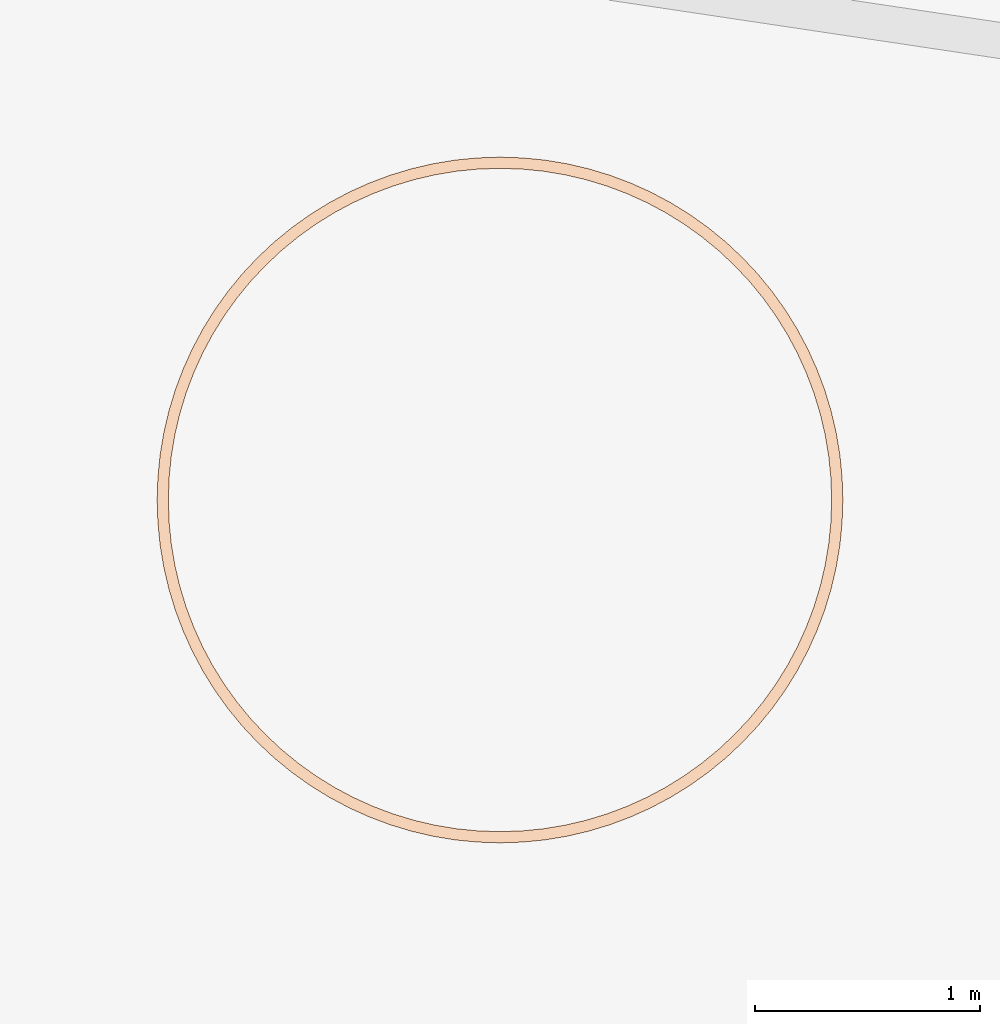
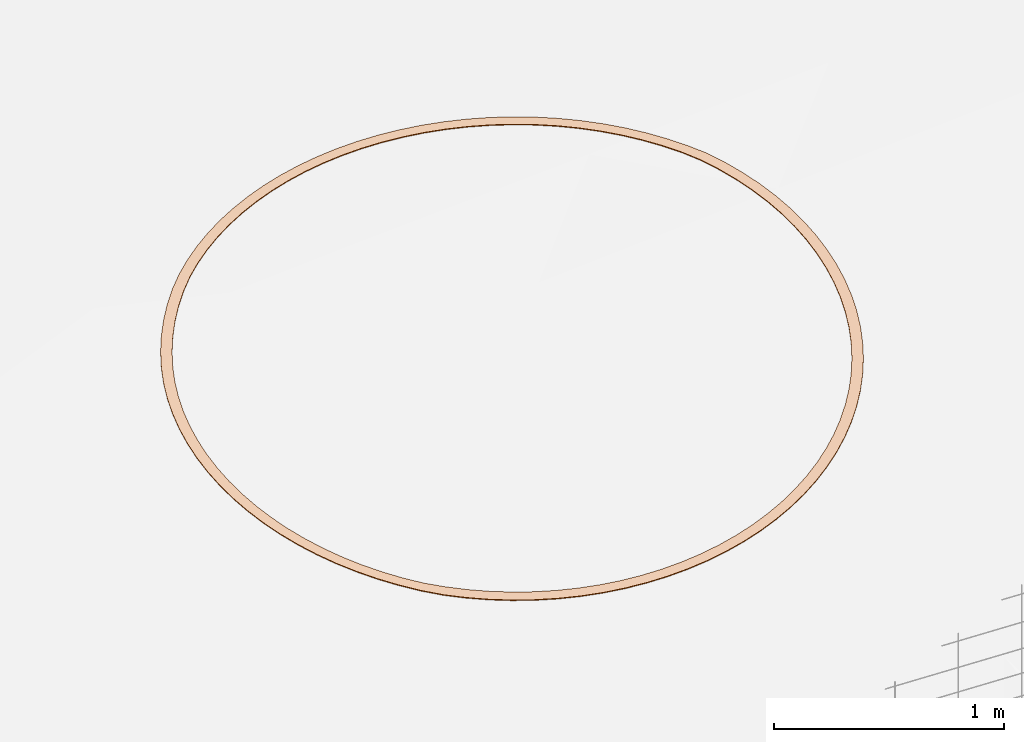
# Not in any storey, part 63 of 72: 1 geographic element.
"""IFC4 model written with IfcOpenShell, lengths in metres."""

from ifc_helpers import new_model, si_unit, direction, frame, origin_with_axes, place, context, subcontext, project, spatial, polygons, material, element, save


model = new_model("IFC4")

# Units and contexts
model_context = context("Model", 3, precision=1e-05, world=origin_with_axes(), true_north=direction((0.0, 1.0)))
body_context = subcontext(model_context, "Body", "Model", "MODEL_VIEW")
ifc_project = project(units=[si_unit("AREAUNIT", "SQUARE_METRE"), si_unit("VOLUMEUNIT", "CUBIC_METRE"), si_unit("LENGTHUNIT", "METRE")], contexts=[model_context])

# Site
site_placement = place(None, origin_with_axes())
site = spatial("IfcSite", under=ifc_project, at=site_placement, Name="Lares · Rua das Mercês · artigo 4771")

# Geographic element
ifc_material = material(Name="Marcação de plantação · linha no terreno", Category="stone")
geographic_element_placement = place(site_placement, frame((0.0, 0.0, 0.0), z_axis=(0.0, 0.0, 1.0), x_axis=(1.0, -1.03767253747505e-17, 0.0)))
element("IfcGeographicElement", 1, at=geographic_element_placement, inside=site, material=ifc_material, Name="Marcação no solo · árvore indicativa 04", ObjectType="Marcação no solo · árvore indicativa 04", PredefinedType="USERDEFINED", context=body_context, shape_type="Tessellation", body=[
    polygons([(25.6261115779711, 3.27682657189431, 13.1493449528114), (25.6261115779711, 3.27682657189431, 13.1533449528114), (25.6761115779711, 3.27682657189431, 13.1526276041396), (25.6761115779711, 3.27682657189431, 13.1566276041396), (25.6229534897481, 3.37329618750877, 13.1622537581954), (25.6229534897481, 3.37329618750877, 13.1662537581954), (25.67284643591, 3.37656634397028, 13.1659739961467), (25.67284643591, 3.37656634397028, 13.1699739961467), (25.6134927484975, 3.46935270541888, 13.174692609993), (25.6134927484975, 3.46935270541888, 13.178692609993), (25.6630649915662, 3.47587901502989, 13.1788345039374), (25.6630649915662, 3.47587901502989, 13.1828345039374), (25.5977698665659, 3.5645847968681, 13.186608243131), (25.5977698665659, 3.5645847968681, 13.190608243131), (25.646809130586, 3.5743393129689, 13.1911540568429), (25.646809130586, 3.5743393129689, 13.1951540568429), (25.5758521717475, 3.65858466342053, 13.1979496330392), (25.5758521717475, 3.65858466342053, 13.2019496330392), (25.6241484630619, 3.67152561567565, 13.2028799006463), (25.6241484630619, 3.67152561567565, 13.2068799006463), (25.5478335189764, 3.75094978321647, 13.2086682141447), (25.5478335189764, 3.75094978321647, 13.2126682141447), (25.5951800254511, 3.76702175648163, 13.2139618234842), (25.5951800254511, 3.76702175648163, 13.2179618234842), (25.5138338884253, 3.84128463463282, 13.2187180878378), (25.5138338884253, 3.84128463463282, 13.2227180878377), (25.5600278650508, 3.86041880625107, 13.2243523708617), (25.5600278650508, 3.86041880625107, 13.2283523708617), (25.4739988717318, 3.92920238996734, 13.2280562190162), (25.4739988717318, 3.92920238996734, 13.2320562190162), (25.5188425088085, 3.95131682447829, 13.2338854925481), (25.5188425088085, 3.95131682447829, 13.2378854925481), (25.4284990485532, 4.01432657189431, 13.2334932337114), (25.4284990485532, 4.01432657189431, 13.2374932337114), (25.4718003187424, 4.03932657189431, 13.2376260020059), (25.4718003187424, 4.03932657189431, 13.2416260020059), (25.3775292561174, 4.09629266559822, 13.2365890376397), (25.3775292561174, 4.09629266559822, 13.2405890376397), (25.4191027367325, 4.1240711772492, 13.2408267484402), (25.4191027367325, 4.1240711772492, 13.2448267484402), (25.3213077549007, 4.17474967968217, 13.2391495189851), (25.3213077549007, 4.17474967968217, 13.2431495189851), (25.3609754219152, 4.20518775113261, 13.2434740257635), (25.3609754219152, 4.20518775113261, 13.2474740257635), (25.2600752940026, 4.24936164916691, 13.2411637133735), (25.2600752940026, 4.24936164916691, 13.2451637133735), (25.2976672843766, 4.28232893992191, 13.2455564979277), (25.2976672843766, 4.28232893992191, 13.2495564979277), (25.1940940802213, 4.31980907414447, 13.2426229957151), (25.1940940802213, 4.31980907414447, 13.2466229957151), (25.2294494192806, 4.35516441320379, 13.2470652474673), (25.2294494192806, 4.35516441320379, 13.2510652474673), (25.1236466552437, 4.3857902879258, 13.2435211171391), (25.1236466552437, 4.3857902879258, 13.2475211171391), (25.1566139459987, 4.42338227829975, 13.2479938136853), (25.1566139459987, 4.42338227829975, 13.2519938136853), (25.049034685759, 4.44702274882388, 13.2438542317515), (25.049034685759, 4.44702274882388, 13.2478542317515), (25.0794727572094, 4.48669041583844, 13.2483382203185), (25.0794727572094, 4.48669041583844, 13.2523382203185), (24.970577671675, 4.50324425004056, 13.2436209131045), (24.970577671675, 4.50324425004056, 13.2476209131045), (24.998356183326, 4.54481773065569, 13.2480969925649), (24.998356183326, 4.54481773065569, 13.2520969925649), (24.8886115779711, 4.55421404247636, 13.2428221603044), (24.8886115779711, 4.55421404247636, 13.2468221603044), (24.9136115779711, 4.59751531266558, 13.2472711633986), (24.9136115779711, 4.59751531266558, 13.2512711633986), (24.8034873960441, 4.59971386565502, 13.2414613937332), (24.8034873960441, 4.59971386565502, 13.2454613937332), (24.8256018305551, 4.64455750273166, 13.2458742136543), (24.8256018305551, 4.64455750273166, 13.2498742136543), (24.7155696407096, 4.63954888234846, 13.2395616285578), (24.7155696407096, 4.63954888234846, 13.2435616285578), (24.7347038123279, 4.68574285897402, 13.2439627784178), (24.7347038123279, 4.68574285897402, 13.2479627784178), (24.6252347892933, 4.67354851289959, 13.2371568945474), (24.6252347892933, 4.67354851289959, 13.2411568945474), (24.6413067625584, 4.72089501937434, 13.2414765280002), (24.6413067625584, 4.72089501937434, 13.2454765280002), (24.5328696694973, 4.70156716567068, 13.2342064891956), (24.5328696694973, 4.70156716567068, 13.2382064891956), (24.5458106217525, 4.74986345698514, 13.2384261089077), (24.5458106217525, 4.74986345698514, 13.2424261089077), (24.4388698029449, 4.72348486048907, 13.2307230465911), (24.4388698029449, 4.72348486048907, 13.2347230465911), (24.4486243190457, 4.77252412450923, 13.234824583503), (24.4486243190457, 4.77252412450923, 13.238824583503), (24.3436377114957, 4.73920774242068, 13.2267214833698), (24.3436377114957, 4.73920774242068, 13.2307214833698), (24.3501640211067, 4.78877998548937, 13.2306873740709), (24.3501640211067, 4.78877998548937, 13.2346873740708), (24.2475811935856, 4.74866848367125, 13.2222189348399), (24.2475811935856, 4.74866848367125, 13.2262189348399), (24.2508513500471, 4.79856142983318, 13.2260321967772), (24.2508513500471, 4.79856142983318, 13.2300321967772), (24.1511115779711, 4.75182657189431, 13.2172346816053), (24.1511115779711, 4.75182657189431, 13.2212346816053), (24.1511115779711, 4.80182657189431, 13.2208789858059), (24.1511115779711, 4.80182657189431, 13.2248789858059), (24.0546419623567, 4.74866848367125, 13.2117900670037), (24.0546419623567, 4.74866848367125, 13.2157900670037), (24.0513718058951, 4.79856142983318, 13.2152498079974), (24.0513718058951, 4.79856142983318, 13.2192498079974), (23.9585854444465, 4.73920774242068, 13.2059084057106), (23.9585854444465, 4.73920774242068, 13.2099084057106), (23.9520591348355, 4.78877998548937, 13.2091687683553), (23.9520591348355, 4.78877998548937, 13.2131687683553), (23.8633533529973, 4.72348486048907, 13.1996148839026), (23.8633533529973, 4.72348486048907, 13.2036148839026), (23.8535988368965, 4.77252412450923, 13.2026619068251), (23.8535988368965, 4.77252412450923, 13.2066619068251), (23.7693534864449, 4.70156716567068, 13.1929364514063), (23.7693534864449, 4.70156716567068, 13.1969364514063), (23.7564125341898, 4.74986345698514, 13.1957570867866), (23.7564125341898, 4.74986345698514, 13.1997570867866), (23.676988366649, 4.67354851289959, 13.185901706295), (23.676988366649, 4.67354851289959, 13.189901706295), (23.6609163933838, 4.72089501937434, 13.1884838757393), (23.6609163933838, 4.72089501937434, 13.1924838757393), (23.5866535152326, 4.63954888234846, 13.1785407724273), (23.5866535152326, 4.63954888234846, 13.1825407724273), (23.5675193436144, 4.68574285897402, 13.1808734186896), (23.5675193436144, 4.68574285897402, 13.1848734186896), (23.4987357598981, 4.59971386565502, 13.1708851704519), (23.4987357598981, 4.59971386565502, 13.1748851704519), (23.4766213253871, 4.64455750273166, 13.1729583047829), (23.4766213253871, 4.64455750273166, 13.1769583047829), (23.4136115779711, 4.55421404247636, 13.162967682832), (23.4136115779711, 4.55421404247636, 13.166967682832), (23.3886115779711, 4.59751531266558, 13.1647724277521), (23.3886115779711, 4.59751531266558, 13.1687724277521), (23.3316454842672, 4.50324425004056, 13.1548222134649), (23.3316454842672, 4.50324425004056, 13.1588222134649), (23.3038669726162, 4.54481773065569, 13.1563508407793), (23.3038669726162, 4.54481773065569, 13.1603508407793), (23.2531884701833, 4.44702274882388, 13.1465494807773), (23.2531884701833, 4.44702274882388, 13.1505494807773), (23.2227503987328, 4.48669041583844, 13.1477350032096), (23.2227503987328, 4.48669041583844, 13.1517350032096), (23.1785765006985, 4.3857902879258, 13.1381309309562), (23.1785765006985, 4.3857902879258, 13.1421309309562), (23.1456092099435, 4.42338227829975, 13.1390310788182), (23.1456092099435, 4.42338227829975, 13.1430310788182), (23.108129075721, 4.31980907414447, 13.125837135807), (23.108129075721, 4.31980907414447, 13.129837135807), (23.0727737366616, 4.35516441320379, 13.1283229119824), (23.0727737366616, 4.35516441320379, 13.1323229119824), (23.0421478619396, 4.24936164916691, 13.1119271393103), (23.0421478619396, 4.24936164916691, 13.1159271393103), (23.0045558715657, 4.28232893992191, 13.1139413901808), (23.0045558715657, 4.28232893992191, 13.1179413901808), (22.9809154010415, 4.17474967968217, 13.0977626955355), (22.9809154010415, 4.17474967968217, 13.1017626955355), (22.941247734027, 4.20518775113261, 13.0992967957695), (22.941247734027, 4.20518775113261, 13.1032967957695), (22.9246938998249, 4.09629266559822, 13.0834044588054), (22.9246938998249, 4.09629266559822, 13.0874044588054), (22.8831204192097, 4.1240711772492, 13.0844518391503), (22.8831204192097, 4.1240711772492, 13.0884518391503), (22.8737241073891, 4.01432657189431, 13.068913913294), (22.8737241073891, 4.01432657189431, 13.072913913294), (22.8304228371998, 4.03932657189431, 13.0694700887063), (22.8304228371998, 4.03932657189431, 13.0734700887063), (22.8282242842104, 3.92920238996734, 13.0543531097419), (22.8282242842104, 3.92920238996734, 13.0583531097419), (22.7833806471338, 3.95131682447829, 13.0560940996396), (22.7833806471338, 3.95131682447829, 13.0600940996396), (22.788389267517, 3.84128463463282, 13.0422144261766), (22.788389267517, 3.84128463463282, 13.0462144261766), (22.7421952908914, 3.86041880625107, 13.0441731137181), (22.7421952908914, 3.86041880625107, 13.0481731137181), (22.7543896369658, 3.75094978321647, 13.0304368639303), (22.7543896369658, 3.75094978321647, 13.0344368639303), (22.7070431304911, 3.76702175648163, 13.0319963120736), (22.7070431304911, 3.76702175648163, 13.0359963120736), (22.7263709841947, 3.65858466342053, 13.0184623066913), (22.7263709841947, 3.65858466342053, 13.0224623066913), (22.6780746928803, 3.67152561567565, 13.0196158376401), (22.6780746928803, 3.67152561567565, 13.0236158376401), (22.7044532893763, 3.5645847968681, 13.0063420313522), (22.7044532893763, 3.5645847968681, 13.0103420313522), (22.6554140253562, 3.5743393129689, 13.0070847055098), (22.6554140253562, 3.5743393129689, 13.0110847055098), (22.6887304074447, 3.46935270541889, 12.9941279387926), (22.6887304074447, 3.46935270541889, 12.9981279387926), (22.6391581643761, 3.47587901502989, 12.9944565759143), (22.6391581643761, 3.47587901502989, 12.9984565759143), (22.6792696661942, 3.37329618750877, 12.9818723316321), (22.6792696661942, 3.37329618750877, 12.9858723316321), (22.6293767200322, 3.37656634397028, 12.9817855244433), (22.6293767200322, 3.37656634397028, 12.9857855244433), (22.6761115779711, 3.27682657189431, 12.969627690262), (22.6761115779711, 3.27682657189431, 12.973627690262), (22.6261115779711, 3.27682657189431, 12.9691258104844), (22.6261115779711, 3.27682657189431, 12.9731258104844), (22.6792696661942, 3.18035695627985, 12.9574464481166), (22.6792696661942, 3.18035695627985, 12.9614464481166), (22.6293767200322, 3.17708679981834, 12.9565316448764), (22.6293767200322, 3.17708679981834, 12.9605316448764), (22.6887304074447, 3.08430043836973, 12.9453807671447), (22.6887304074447, 3.08430043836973, 12.9493807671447), (22.6391581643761, 3.07777412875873, 12.9440569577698), (22.6391581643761, 3.07777412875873, 12.9480569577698), (22.7044532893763, 2.98906834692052, 12.9334823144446), (22.7044532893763, 2.98906834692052, 12.9374823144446), (22.6554140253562, 2.97931383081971, 12.9317551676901), (22.6554140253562, 2.97931383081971, 12.9357551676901), (22.7263709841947, 2.89506848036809, 12.9218020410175), (22.7263709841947, 2.89506848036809, 12.9258020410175), (22.6780746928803, 2.88212752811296, 12.9196789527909), (22.6780746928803, 2.88212752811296, 12.9236789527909), (22.7543896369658, 2.80270336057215, 12.9103899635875), (22.7543896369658, 2.80270336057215, 12.9143899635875), (22.7070431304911, 2.78663138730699, 12.9078800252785), (22.7070431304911, 2.78663138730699, 12.9118800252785), (22.788389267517, 2.7123685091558, 12.899294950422), (22.788389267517, 2.7123685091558, 12.903294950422), (22.7421952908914, 2.69323433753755, 12.8964089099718), (22.7421952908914, 2.69323433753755, 12.9004089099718), (22.8282242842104, 2.62445075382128, 12.8885645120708), (22.8282242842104, 2.62445075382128, 12.8925645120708), (22.7833806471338, 2.60233631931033, 12.8853147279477), (22.7833806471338, 2.60233631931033, 12.8893147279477), (22.8737241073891, 2.53932657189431, 12.8782445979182), (22.8737241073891, 2.53932657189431, 12.8822445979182), (22.8304228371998, 2.51432657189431, 12.8746449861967), (22.8304228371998, 2.51432657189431, 12.8786449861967), (22.9246938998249, 2.4573604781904, 12.8683793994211), (22.9246938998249, 2.4573604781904, 12.8723793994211), (22.8831204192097, 2.42958196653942, 12.8644453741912), (22.8831204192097, 2.42958196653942, 12.8684453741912), (22.9809154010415, 2.37890346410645, 12.8590111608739), (22.9809154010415, 2.37890346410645, 12.8630111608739), (22.941247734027, 2.34846539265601, 12.8547595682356), (22.941247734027, 2.34846539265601, 12.8587595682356), (23.0421478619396, 2.30429149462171, 12.8501799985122), (23.0421478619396, 2.30429149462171, 12.8541799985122), (23.0045558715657, 2.2713242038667, 12.845629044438), (23.0045558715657, 2.2713242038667, 12.849629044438), (23.108129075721, 2.23384406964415, 12.8422264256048), (23.108129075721, 2.23384406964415, 12.8462264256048), (23.0727737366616, 2.19848873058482, 12.837092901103), (23.0727737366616, 2.19848873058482, 12.841092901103), (23.1785765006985, 2.16786285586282, 12.8378806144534), (23.1785765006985, 2.16786285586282, 12.8418806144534), (23.1456092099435, 2.13027086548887, 12.8306051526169), (23.1456092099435, 2.13027086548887, 12.8346051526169), (23.2531884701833, 2.10663039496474, 12.8344538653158), (23.2531884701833, 2.10663039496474, 12.8384538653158), (23.2227503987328, 2.06696272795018, 12.8270622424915), (23.2227503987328, 2.06696272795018, 12.8310622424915), (23.3316454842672, 2.05040889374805, 12.8319608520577), (23.3316454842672, 2.05040889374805, 12.8359608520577), (23.3038669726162, 2.00883541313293, 12.8244847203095), (23.3038669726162, 2.00883541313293, 12.8284847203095), (23.4136115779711, 1.99943910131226, 12.8304122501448), (23.4136115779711, 1.99943910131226, 12.8344122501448), (23.3886115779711, 1.95613783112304, 12.8228836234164), (23.3886115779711, 1.95613783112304, 12.8268836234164), (23.4987357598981, 1.95393927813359, 12.8298146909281), (23.4987357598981, 1.95393927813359, 12.8338146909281), (23.4766213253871, 1.90909564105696, 12.8222658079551), (23.4766213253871, 1.90909564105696, 12.8262658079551), (23.5866535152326, 1.91410426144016, 12.830170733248), (23.5866535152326, 1.91410426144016, 12.834170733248), (23.5675193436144, 1.8679102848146, 12.8226339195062), (23.5675193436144, 1.8679102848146, 12.8266339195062), (23.676988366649, 1.88010463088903, 12.8314788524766), (23.676988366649, 1.88010463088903, 12.8354788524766), (23.6609163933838, 1.83275812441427, 12.8239863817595), (23.6609163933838, 1.83275812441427, 12.8279863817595), (23.7693534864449, 1.85208597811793, 12.8337334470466), (23.7693534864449, 1.85208597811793, 12.8377334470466), (23.7564125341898, 1.80378968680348, 12.826317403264), (23.7564125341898, 1.80378968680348, 12.830317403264), (23.8633533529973, 1.83016828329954, 12.8369248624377), (23.8633533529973, 1.83016828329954, 12.8409248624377), (23.8535988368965, 1.78112901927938, 12.8296170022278), (23.8535988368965, 1.78112901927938, 12.8336170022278), (23.9585854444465, 1.81444540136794, 12.8410394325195), (23.9585854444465, 1.81444540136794, 12.8450394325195), (23.9520591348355, 1.76487315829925, 12.8338710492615), (23.9520591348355, 1.76487315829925, 12.8378710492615), (24.0546419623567, 1.80498466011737, 12.8460595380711), (24.0546419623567, 1.80498466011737, 12.8500595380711), (24.0513718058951, 1.75509171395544, 12.8390613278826), (24.0513718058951, 1.75509171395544, 12.8430613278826), (24.1511115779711, 1.80182657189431, 12.8519636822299), (24.1511115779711, 1.80182657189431, 12.8559636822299), (24.1511115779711, 1.75182657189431, 12.8451656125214), (24.1511115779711, 1.75182657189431, 12.8491656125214), (24.2475811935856, 1.80498466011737, 12.858726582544), (24.2475811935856, 1.80498466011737, 12.862726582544), (24.2508513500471, 1.75509171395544, 12.8521577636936), (24.2508513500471, 1.75509171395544, 12.8561577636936), (24.3436377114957, 1.81444540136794, 12.8663192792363), (24.3436377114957, 1.81444540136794, 12.8703192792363), (24.3501640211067, 1.76487315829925, 12.8600078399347), (24.3501640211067, 1.76487315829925, 12.8640078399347), (24.4388698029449, 1.83016828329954, 12.8747092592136), (24.4388698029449, 1.83016828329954, 12.8787092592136), (24.4486243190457, 1.78112901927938, 12.868682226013), (24.4486243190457, 1.78112901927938, 12.872682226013), (24.5328696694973, 1.85208597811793, 12.8838605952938), (24.5328696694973, 1.85208597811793, 12.8878605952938), (24.5458106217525, 1.80378968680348, 12.8781437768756), (24.5458106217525, 1.80378968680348, 12.8821437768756), (24.6252347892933, 1.88010463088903, 12.8937341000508), (24.6252347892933, 1.88010463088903, 12.8977341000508), (24.6413067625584, 1.83275812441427, 12.8883519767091), (24.6413067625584, 1.83275812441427, 12.8923519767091), (24.7155696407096, 1.91410426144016, 12.9042874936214), (24.7155696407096, 1.91410426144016, 12.9082874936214), (24.7347038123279, 1.8679102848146, 12.8992631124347), (24.7347038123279, 1.8679102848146, 12.9032631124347), (24.8034873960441, 1.95393927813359, 12.9154755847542), (24.8034873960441, 1.95393927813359, 12.9194755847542), (24.8256018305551, 1.90909564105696, 12.910830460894), (24.8256018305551, 1.90909564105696, 12.914830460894), (24.8886115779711, 1.99943910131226, 12.9272504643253), (24.8886115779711, 1.99943910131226, 12.9312504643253), (24.9136115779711, 1.95613783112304, 12.9230044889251), (24.9136115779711, 1.95613783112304, 12.9270044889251), (24.970577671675, 2.05040889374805, 12.9395617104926), (24.970577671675, 2.05040889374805, 12.9435617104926), (24.998356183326, 2.00883541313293, 12.935733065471), (24.998356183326, 2.00883541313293, 12.939733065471), (25.049034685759, 2.10663039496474, 12.9523566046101), (25.049034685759, 2.10663039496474, 12.9563566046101), (25.0794727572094, 2.06696272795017, 12.9489616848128), (25.0794727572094, 2.06696272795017, 12.9529616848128), (25.1236466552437, 2.16786285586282, 12.9655803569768), (25.1236466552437, 2.16786285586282, 12.9695803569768), (25.1566139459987, 2.13027086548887, 12.9626336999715), (25.1566139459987, 2.13027086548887, 12.9666336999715), (25.1940940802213, 2.23384406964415, 12.9791763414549), (25.1940940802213, 2.23384406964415, 12.9831763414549), (25.2294494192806, 2.19848873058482, 12.9766905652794), (25.2294494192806, 2.19848873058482, 12.9806905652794), (25.2600752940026, 2.30429149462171, 12.9930863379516), (25.2600752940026, 2.30429149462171, 12.9970863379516), (25.2976672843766, 2.2713242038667, 12.9910720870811), (25.2976672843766, 2.2713242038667, 12.9950720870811), (25.3213077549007, 2.37890346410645, 13.0072507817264), (25.3213077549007, 2.37890346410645, 13.0112507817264), (25.3609754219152, 2.34846539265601, 13.0057166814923), (25.3609754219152, 2.34846539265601, 13.0097166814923), (25.3775292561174, 2.45736047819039, 13.0216090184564), (25.3775292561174, 2.45736047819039, 13.0256090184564), (25.4191027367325, 2.42958196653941, 13.0205616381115), (25.4191027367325, 2.42958196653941, 13.0245616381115), (25.4284990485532, 2.53932657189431, 13.0360995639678), (25.4284990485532, 2.53932657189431, 13.0400995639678), (25.4718003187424, 2.51432657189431, 13.0355433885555), (25.4718003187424, 2.51432657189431, 13.0395433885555), (25.4739988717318, 2.62445075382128, 13.05066036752), (25.4739988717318, 2.62445075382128, 13.05466036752), (25.5188425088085, 2.60233631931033, 13.0505977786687), (25.5188425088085, 2.60233631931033, 13.0545977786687), (25.5138338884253, 2.7123685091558, 13.0652290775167), (25.5138338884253, 2.7123685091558, 13.0692290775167), (25.5600278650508, 2.69323433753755, 13.0656603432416), (25.5600278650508, 2.69323433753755, 13.0696603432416), (25.5478335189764, 2.80270336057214, 13.0797433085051), (25.5478335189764, 2.80270336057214, 13.0837433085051), (25.5951800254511, 2.78663138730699, 13.0806665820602), (25.5951800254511, 2.78663138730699, 13.0846665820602), (25.5758521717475, 2.89506848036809, 13.0941409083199), (25.5758521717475, 2.89506848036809, 13.0981409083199), (25.6241484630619, 2.88212752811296, 13.095552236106), (25.6241484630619, 2.88212752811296, 13.099552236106), (25.5977698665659, 2.98906834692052, 13.1083602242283), (25.5977698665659, 2.98906834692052, 13.1123602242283), (25.646809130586, 2.97931383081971, 13.1102535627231), (25.646809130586, 2.97931383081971, 13.1142535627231), (25.6134927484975, 3.08430043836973, 13.1223403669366), (25.6134927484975, 3.08430043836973, 13.1263403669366), (25.6630649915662, 3.07777412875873, 13.1247076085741), (25.6630649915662, 3.07777412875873, 13.1287076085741), (25.6229534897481, 3.18035695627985, 13.1360214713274), (25.6229534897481, 3.18035695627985, 13.1400214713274), (25.67284643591, 3.17708679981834, 13.1388524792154), (25.67284643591, 3.17708679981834, 13.1428524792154)], [[[5, 7, 3, 1]], [[4, 8, 6, 2]], [[2, 6, 5, 1]], [[7, 8, 4, 3]], [[9, 11, 7, 5]], [[8, 12, 10, 6]], [[6, 10, 9, 5]], [[11, 12, 8, 7]], [[13, 15, 11, 9]], [[12, 16, 14, 10]], [[10, 14, 13, 9]], [[15, 16, 12, 11]], [[17, 19, 15, 13]], [[16, 20, 18, 14]], [[14, 18, 17, 13]], [[19, 20, 16, 15]], [[21, 23, 19, 17]], [[20, 24, 22, 18]], [[18, 22, 21, 17]], [[23, 24, 20, 19]], [[25, 27, 23, 21]], [[24, 28, 26, 22]], [[22, 26, 25, 21]], [[27, 28, 24, 23]], [[29, 31, 27, 25]], [[28, 32, 30, 26]], [[26, 30, 29, 25]], [[31, 32, 28, 27]], [[33, 35, 31, 29]], [[32, 36, 34, 30]], [[30, 34, 33, 29]], [[35, 36, 32, 31]], [[37, 39, 35, 33]], [[36, 40, 38, 34]], [[34, 38, 37, 33]], [[39, 40, 36, 35]], [[41, 43, 39, 37]], [[40, 44, 42, 38]], [[38, 42, 41, 37]], [[43, 44, 40, 39]], [[45, 47, 43, 41]], [[44, 48, 46, 42]], [[42, 46, 45, 41]], [[47, 48, 44, 43]], [[49, 51, 47, 45]], [[48, 52, 50, 46]], [[46, 50, 49, 45]], [[51, 52, 48, 47]], [[53, 55, 51, 49]], [[52, 56, 54, 50]], [[50, 54, 53, 49]], [[55, 56, 52, 51]], [[57, 59, 55, 53]], [[56, 60, 58, 54]], [[54, 58, 57, 53]], [[59, 60, 56, 55]], [[61, 63, 59, 57]], [[60, 64, 62, 58]], [[58, 62, 61, 57]], [[63, 64, 60, 59]], [[65, 67, 63, 61]], [[64, 68, 66, 62]], [[62, 66, 65, 61]], [[67, 68, 64, 63]], [[69, 71, 67, 65]], [[68, 72, 70, 66]], [[66, 70, 69, 65]], [[71, 72, 68, 67]], [[73, 75, 71, 69]], [[72, 76, 74, 70]], [[70, 74, 73, 69]], [[75, 76, 72, 71]], [[77, 79, 75, 73]], [[76, 80, 78, 74]], [[74, 78, 77, 73]], [[79, 80, 76, 75]], [[81, 83, 79, 77]], [[80, 84, 82, 78]], [[78, 82, 81, 77]], [[83, 84, 80, 79]], [[85, 87, 83, 81]], [[84, 88, 86, 82]], [[82, 86, 85, 81]], [[87, 88, 84, 83]], [[89, 91, 87, 85]], [[88, 92, 90, 86]], [[86, 90, 89, 85]], [[91, 92, 88, 87]], [[93, 95, 91, 89]], [[92, 96, 94, 90]], [[90, 94, 93, 89]], [[95, 96, 92, 91]], [[97, 99, 95, 93]], [[96, 100, 98, 94]], [[94, 98, 97, 93]], [[99, 100, 96, 95]], [[101, 103, 99, 97]], [[100, 104, 102, 98]], [[98, 102, 101, 97]], [[103, 104, 100, 99]], [[105, 107, 103, 101]], [[104, 108, 106, 102]], [[102, 106, 105, 101]], [[107, 108, 104, 103]], [[109, 111, 107, 105]], [[108, 112, 110, 106]], [[106, 110, 109, 105]], [[111, 112, 108, 107]], [[113, 115, 111, 109]], [[112, 116, 114, 110]], [[110, 114, 113, 109]], [[115, 116, 112, 111]], [[117, 119, 115, 113]], [[116, 120, 118, 114]], [[114, 118, 117, 113]], [[119, 120, 116, 115]], [[121, 123, 119, 117]], [[120, 124, 122, 118]], [[118, 122, 121, 117]], [[123, 124, 120, 119]], [[125, 127, 123, 121]], [[124, 128, 126, 122]], [[122, 126, 125, 121]], [[127, 128, 124, 123]], [[129, 131, 127, 125]], [[128, 132, 130, 126]], [[126, 130, 129, 125]], [[131, 132, 128, 127]], [[133, 135, 131, 129]], [[132, 136, 134, 130]], [[130, 134, 133, 129]], [[135, 136, 132, 131]], [[137, 139, 135, 133]], [[136, 140, 138, 134]], [[134, 138, 137, 133]], [[139, 140, 136, 135]], [[141, 143, 139, 137]], [[140, 144, 142, 138]], [[138, 142, 141, 137]], [[143, 144, 140, 139]], [[145, 147, 143, 141]], [[144, 148, 146, 142]], [[142, 146, 145, 141]], [[147, 148, 144, 143]], [[149, 151, 147, 145]], [[148, 152, 150, 146]], [[146, 150, 149, 145]], [[151, 152, 148, 147]], [[153, 155, 151, 149]], [[152, 156, 154, 150]], [[150, 154, 153, 149]], [[155, 156, 152, 151]], [[157, 159, 155, 153]], [[156, 160, 158, 154]], [[154, 158, 157, 153]], [[159, 160, 156, 155]], [[161, 163, 159, 157]], [[160, 164, 162, 158]], [[158, 162, 161, 157]], [[163, 164, 160, 159]], [[165, 167, 163, 161]], [[164, 168, 166, 162]], [[162, 166, 165, 161]], [[167, 168, 164, 163]], [[169, 171, 167, 165]], [[168, 172, 170, 166]], [[166, 170, 169, 165]], [[171, 172, 168, 167]], [[173, 175, 171, 169]], [[172, 176, 174, 170]], [[170, 174, 173, 169]], [[175, 176, 172, 171]], [[177, 179, 175, 173]], [[176, 180, 178, 174]], [[174, 178, 177, 173]], [[179, 180, 176, 175]], [[181, 183, 179, 177]], [[180, 184, 182, 178]], [[178, 182, 181, 177]], [[183, 184, 180, 179]], [[185, 187, 183, 181]], [[184, 188, 186, 182]], [[182, 186, 185, 181]], [[187, 188, 184, 183]], [[189, 191, 187, 185]], [[188, 192, 190, 186]], [[186, 190, 189, 185]], [[191, 192, 188, 187]], [[193, 195, 191, 189]], [[192, 196, 194, 190]], [[190, 194, 193, 189]], [[195, 196, 192, 191]], [[197, 199, 195, 193]], [[196, 200, 198, 194]], [[194, 198, 197, 193]], [[199, 200, 196, 195]], [[201, 203, 199, 197]], [[200, 204, 202, 198]], [[198, 202, 201, 197]], [[203, 204, 200, 199]], [[205, 207, 203, 201]], [[204, 208, 206, 202]], [[202, 206, 205, 201]], [[207, 208, 204, 203]], [[209, 211, 207, 205]], [[208, 212, 210, 206]], [[206, 210, 209, 205]], [[211, 212, 208, 207]], [[213, 215, 211, 209]], [[212, 216, 214, 210]], [[210, 214, 213, 209]], [[215, 216, 212, 211]], [[217, 219, 215, 213]], [[216, 220, 218, 214]], [[214, 218, 217, 213]], [[219, 220, 216, 215]], [[221, 223, 219, 217]], [[220, 224, 222, 218]], [[218, 222, 221, 217]], [[223, 224, 220, 219]], [[225, 227, 223, 221]], [[224, 228, 226, 222]], [[222, 226, 225, 221]], [[227, 228, 224, 223]], [[229, 231, 227, 225]], [[228, 232, 230, 226]], [[226, 230, 229, 225]], [[231, 232, 228, 227]], [[233, 235, 231, 229]], [[232, 236, 234, 230]], [[230, 234, 233, 229]], [[235, 236, 232, 231]], [[237, 239, 235, 233]], [[236, 240, 238, 234]], [[234, 238, 237, 233]], [[239, 240, 236, 235]], [[241, 243, 239, 237]], [[240, 244, 242, 238]], [[238, 242, 241, 237]], [[243, 244, 240, 239]], [[245, 247, 243, 241]], [[244, 248, 246, 242]], [[242, 246, 245, 241]], [[247, 248, 244, 243]], [[249, 251, 247, 245]], [[248, 252, 250, 246]], [[246, 250, 249, 245]], [[251, 252, 248, 247]], [[253, 255, 251, 249]], [[252, 256, 254, 250]], [[250, 254, 253, 249]], [[255, 256, 252, 251]], [[257, 259, 255, 253]], [[256, 260, 258, 254]], [[254, 258, 257, 253]], [[259, 260, 256, 255]], [[261, 263, 259, 257]], [[260, 264, 262, 258]], [[258, 262, 261, 257]], [[263, 264, 260, 259]], [[265, 267, 263, 261]], [[264, 268, 266, 262]], [[262, 266, 265, 261]], [[267, 268, 264, 263]], [[269, 271, 267, 265]], [[268, 272, 270, 266]], [[266, 270, 269, 265]], [[271, 272, 268, 267]], [[273, 275, 271, 269]], [[272, 276, 274, 270]], [[270, 274, 273, 269]], [[275, 276, 272, 271]], [[277, 279, 275, 273]], [[276, 280, 278, 274]], [[274, 278, 277, 273]], [[279, 280, 276, 275]], [[281, 283, 279, 277]], [[280, 284, 282, 278]], [[278, 282, 281, 277]], [[283, 284, 280, 279]], [[285, 287, 283, 281]], [[284, 288, 286, 282]], [[282, 286, 285, 281]], [[287, 288, 284, 283]], [[289, 291, 287, 285]], [[288, 292, 290, 286]], [[286, 290, 289, 285]], [[291, 292, 288, 287]], [[293, 295, 291, 289]], [[292, 296, 294, 290]], [[290, 294, 293, 289]], [[295, 296, 292, 291]], [[297, 299, 295, 293]], [[296, 300, 298, 294]], [[294, 298, 297, 293]], [[299, 300, 296, 295]], [[301, 303, 299, 297]], [[300, 304, 302, 298]], [[298, 302, 301, 297]], [[303, 304, 300, 299]], [[305, 307, 303, 301]], [[304, 308, 306, 302]], [[302, 306, 305, 301]], [[307, 308, 304, 303]], [[309, 311, 307, 305]], [[308, 312, 310, 306]], [[306, 310, 309, 305]], [[311, 312, 308, 307]], [[313, 315, 311, 309]], [[312, 316, 314, 310]], [[310, 314, 313, 309]], [[315, 316, 312, 311]], [[317, 319, 315, 313]], [[316, 320, 318, 314]], [[314, 318, 317, 313]], [[319, 320, 316, 315]], [[321, 323, 319, 317]], [[320, 324, 322, 318]], [[318, 322, 321, 317]], [[323, 324, 320, 319]], [[325, 327, 323, 321]], [[324, 328, 326, 322]], [[322, 326, 325, 321]], [[327, 328, 324, 323]], [[329, 331, 327, 325]], [[328, 332, 330, 326]], [[326, 330, 329, 325]], [[331, 332, 328, 327]], [[333, 335, 331, 329]], [[332, 336, 334, 330]], [[330, 334, 333, 329]], [[335, 336, 332, 331]], [[337, 339, 335, 333]], [[336, 340, 338, 334]], [[334, 338, 337, 333]], [[339, 340, 336, 335]], [[341, 343, 339, 337]], [[340, 344, 342, 338]], [[338, 342, 341, 337]], [[343, 344, 340, 339]], [[345, 347, 343, 341]], [[344, 348, 346, 342]], [[342, 346, 345, 341]], [[347, 348, 344, 343]], [[349, 351, 347, 345]], [[348, 352, 350, 346]], [[346, 350, 349, 345]], [[351, 352, 348, 347]], [[353, 355, 351, 349]], [[352, 356, 354, 350]], [[350, 354, 353, 349]], [[355, 356, 352, 351]], [[357, 359, 355, 353]], [[356, 360, 358, 354]], [[354, 358, 357, 353]], [[359, 360, 356, 355]], [[361, 363, 359, 357]], [[360, 364, 362, 358]], [[358, 362, 361, 357]], [[363, 364, 360, 359]], [[365, 367, 363, 361]], [[364, 368, 366, 362]], [[362, 366, 365, 361]], [[367, 368, 364, 363]], [[369, 371, 367, 365]], [[368, 372, 370, 366]], [[366, 370, 369, 365]], [[371, 372, 368, 367]], [[373, 375, 371, 369]], [[372, 376, 374, 370]], [[370, 374, 373, 369]], [[375, 376, 372, 371]], [[377, 379, 375, 373]], [[376, 380, 378, 374]], [[374, 378, 377, 373]], [[379, 380, 376, 375]], [[381, 383, 379, 377]], [[380, 384, 382, 378]], [[378, 382, 381, 377]], [[383, 384, 380, 379]], [[1, 3, 383, 381]], [[384, 4, 2, 382]], [[382, 2, 1, 381]], [[3, 4, 384, 383]]]),
])

save(model, "model.ifc")
